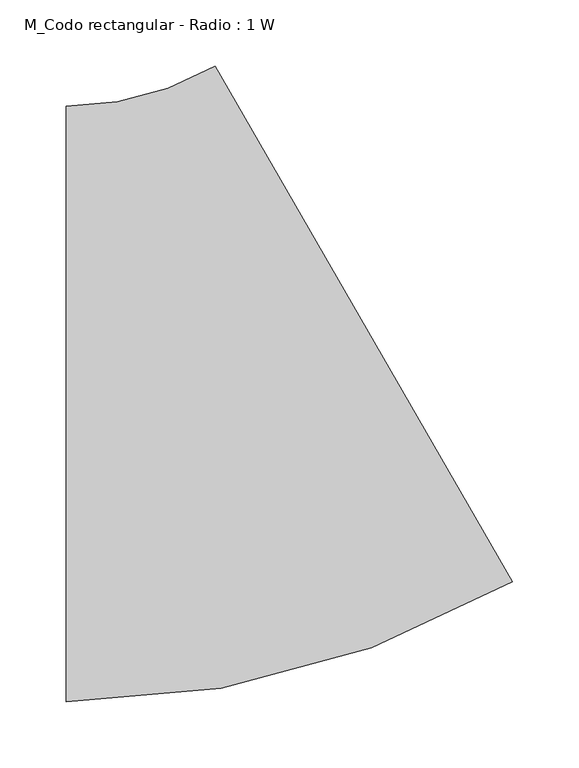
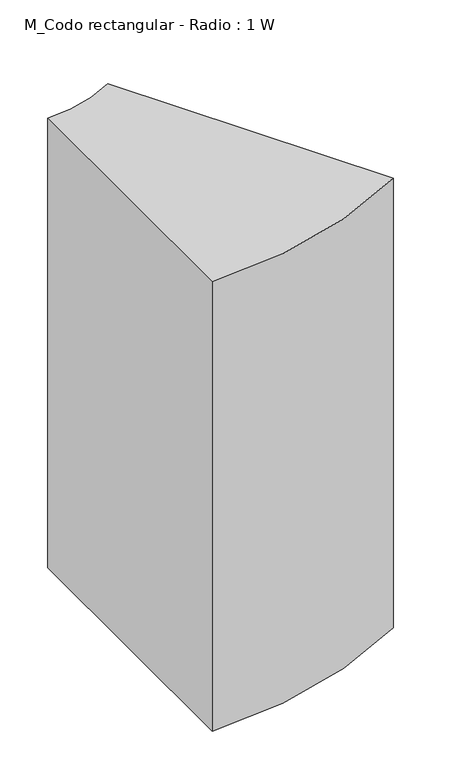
"""IFC4 building model written with IfcOpenShell, lengths in millimetres: duct fitting geometry, M_Codo rectangular - Radio : 1 W."""

from ifc_helpers import new_model, si_unit, point, frame, frame_2d, origin, place, context, project, spatial, polyline, circle_curve, trimmed, segment, composite_curve, outline, extrude, source, transform, mapped, element, save


def m_codo_rectangular_radio_1_w_5614975c(model_context):
    return source(origin(), model_context, "Body", "SweptSolid", [
        extrude(outline(composite_curve([segment(trimmed(circle_curve(frame_2d((-120.5771366, 450.0)), 675.0), [point((216.9228634, -134.5671476))], [point((-120.5771366, -225.0))], False, "CARTESIAN"), True, "CONTINUOUS"), segment(polyline([(-120.5771366, -225.0), (-120.5771366, 225.0)]), True, "CONTINUOUS"), segment(trimmed(circle_curve(frame_2d((-120.5771366, 450.0)), 225.0), [point((-120.5771366, 225.0))], [point((-8.0771366, 255.1442841))], True, "CARTESIAN"), True, "CONTINUOUS"), segment(polyline([(-8.0771366, 255.1442841), (216.9228634, -134.5671476)]), True, "CONTINUOUS")], self_intersect=False)), frame((0.0, 0.0, -375.0), z_axis=(0.0, 0.0, 1.0), x_axis=(1.0, 0.0, 0.0)), (0.0, 0.0, 1.0), 750.0),
    ])


if __name__ == "__main__":
    model = new_model("IFC4")
    model_context = context("Model", 3, world=origin())
    ifc_project = project(units=[si_unit("LENGTHUNIT", "METRE", prefix="MILLI")], contexts=[model_context])
    site = spatial("IfcSite", under=ifc_project)
    building = spatial("IfcBuilding", under=site)
    placement = place(None, origin())
    m_codo_rectangular_radio_1_w_shape = m_codo_rectangular_radio_1_w_5614975c(model_context)
    element("IfcDuctFitting", 1, ObjectType="M_Codo rectangular - Radio : 1 W", at=placement, inside=building, context=model_context, shape_type="MappedRepresentation", body=[
        mapped(m_codo_rectangular_radio_1_w_shape, transform((0.0, 0.0, 0.0), x_axis=(1.0, 0.0, 0.0), y_axis=(0.0, 1.0, 0.0), z_axis=(0.0, 0.0, 1.0))),
    ])
    save(model, "model.ifc")
